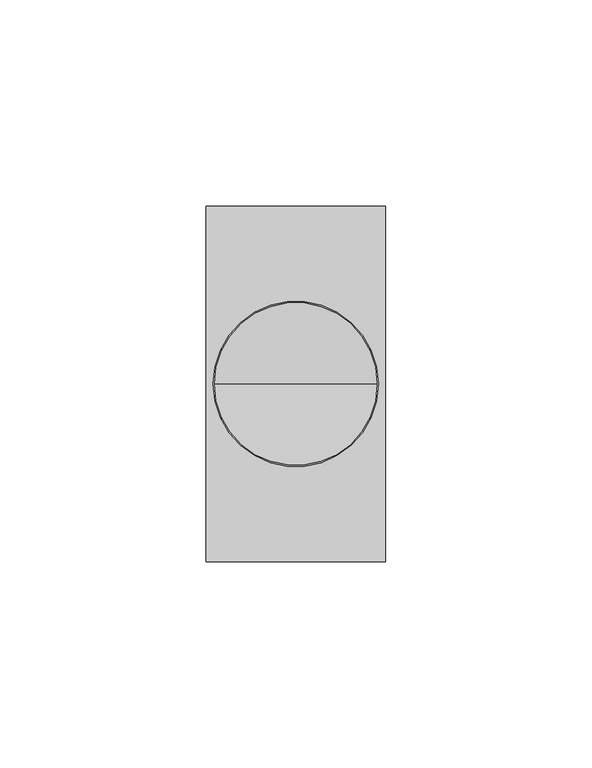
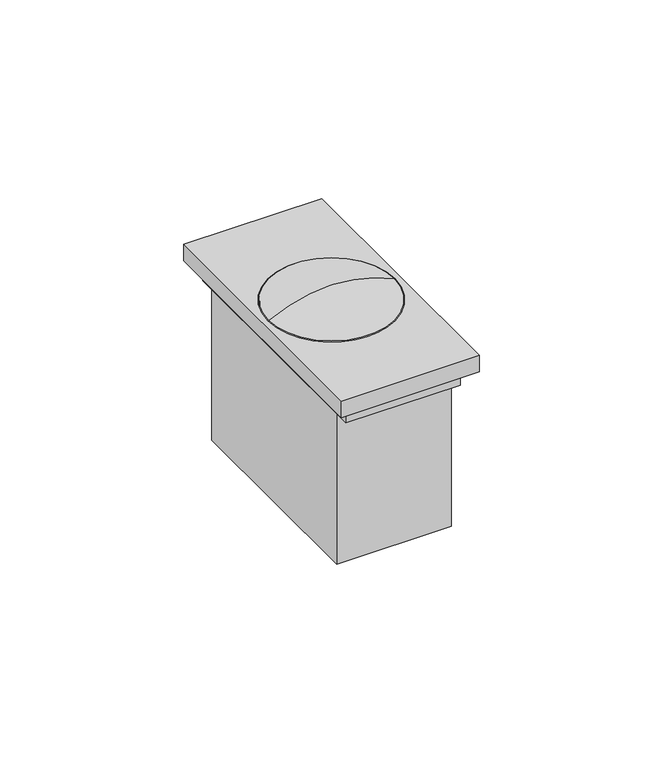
"""IFC4 building model written with IfcOpenShell, lengths in millimetres: light fixture geometry, BT_LN-TorciaEstraibile : Torcia estraibile - Art. K4380 - 2M - Cover Nero."""

from ifc_helpers import new_model, si_unit, point, frame, origin, origin_with_axes, origin_2d, place, context, project, spatial, polyline, circle_curve, ellipse_curve, trimmed, segment, composite_curve, outline, extrude, source, transform, mapped, element, save
from ifc_brep_helpers import plane_surface, cylinder_surface, revolved_surface, advanced_brep


def light_fixture_13e298cc(model_context):
    return source(origin(), model_context, "Body", "SolidModel", [
        advanced_brep(
        [(19.7266969, 0.0, 61.1362639), (-19.7266969, 0.0, 61.1362639), (0.0, 0.0, 65.9865601), (19.7266969, 0.0, 55.5), (-19.7266969, 0.0, 55.5), (0.0, 0.0, 55.5)],
        [
            (0, 1, circle_curve(frame((0.0, 0.0, 61.1362639), z_axis=(0.0, 0.0, 1.0), x_axis=(-1.0, 0.0, 0.0)), 19.7266969)),
            (1, 2, circle_curve(frame((1.075794, 0.0, 19.0706968), z_axis=(0.0, 1.0, 0.0), x_axis=(1.0, 0.0, 0.0)), 46.9281958)),
            (2, 0, circle_curve(frame((-1.075794, 0.0, 19.0706968), z_axis=(0.0, 1.0, 0.0), x_axis=(-1.0, 0.0, 0.0)), 46.9281958)),
            (1, 0, circle_curve(frame((0.0, 0.0, 61.1362639), z_axis=(0.0, 0.0, 1.0), x_axis=(-1.0, 0.0, 0.0)), 19.7266969)),
            (3, 4, circle_curve(frame((0.0, 0.0, 55.5), z_axis=(0.0, 0.0, 1.0), x_axis=(-1.0, 0.0, 0.0)), 19.7266969)),
            (4, 1),
            (0, 3),
            (4, 3, circle_curve(frame((0.0, 0.0, 55.5), z_axis=(0.0, 0.0, 1.0), x_axis=(-1.0, 0.0, 0.0)), 19.7266969)),
            (5, 4),
            (3, 5),
        ],
        [
            revolved_surface(trimmed(ellipse_curve(frame((1.075794, 0.0, 19.0706968), z_axis=(0.0, -1.0, 0.0), x_axis=(1.0, 0.0, 0.0)), 46.9281958, 46.9281958), [point((0.0, 0.0, 65.9865601))], [point((-19.7266969, 0.0, 61.1362639))], True, "CARTESIAN"), (0.0, 0.0, -381.0), (0.0, 0.0, -1.0)),
            cylinder_surface(frame((0.0, 0.0, -381.0), z_axis=(0.0, 0.0, -1.0), x_axis=(-1.0, 0.0, 0.0)), 19.7266969),
            plane_surface(frame((0.0, 0.0, 55.5), z_axis=(0.0, 0.0, -1.0), x_axis=(-1.0, 0.0, 0.0))),
        ],
        [
            (0, [[1, 2, 3]]),
            (0, [[4, -3, -2]]),
            (1, [[5, 6, -1, 7]]),
            (1, [[8, -7, -4, -6]]),
            (2, [[9, -5, 10]]),
            (2, [[-10, -8, -9]]),
        ],
    ),
        extrude(outline(polyline([(-21.7, -43.0), (-21.7, 43.0), (21.7, 43.0), (21.7, -43.0), (-21.7, -43.0)]), holes=[composite_curve([segment(trimmed(circle_curve(origin_2d(), 20.0), [point((-20.0, 0.0))], [point((20.0, 0.0))], True, "CARTESIAN"), True, "CONTINUOUS"), segment(trimmed(circle_curve(origin_2d(), 20.0), [point((20.0, 0.0))], [point((-20.0, 0.0))], True, "CARTESIAN"), True, "CONTINUOUS")], self_intersect=False)]), frame((0.0, 0.0, 55.5), z_axis=(0.0, 0.0, 1.0), x_axis=(1.0, 0.0, 0.0)), (0.0, 0.0, 1.0), 5.5),
        extrude(outline(polyline([(-18.0, 39.0), (18.0, 39.0), (18.0, -39.0), (-18.0, -39.0), (-18.0, 39.0)])), frame((0.0, 0.0, 50.0), z_axis=(0.0, 0.0, 1.0), x_axis=(1.0, 0.0, 0.0)), (0.0, 0.0, 1.0), 5.5),
        extrude(outline(polyline([(-18.0, 34.0), (18.0, 34.0), (18.0, -34.0), (-18.0, -34.0), (-18.0, 34.0)])), origin_with_axes(), (0.0, 0.0, 1.0), 50.0),
    ])


if __name__ == "__main__":
    model = new_model("IFC4")
    model_context = context("Model", 3, world=origin())
    ifc_project = project(units=[si_unit("LENGTHUNIT", "METRE", prefix="MILLI")], contexts=[model_context])
    site = spatial("IfcSite", under=ifc_project)
    building = spatial("IfcBuilding", under=site)
    placement = place(None, origin())
    light_fixture_shape = light_fixture_13e298cc(model_context)
    element("IfcLightFixture", 1, ObjectType="BT_LN-TorciaEstraibile : Torcia estraibile - Art. K4380 - 2M - Cover Nero", at=placement, inside=building, context=model_context, shape_type="MappedRepresentation", body=[
        mapped(light_fixture_shape, transform((0.0, 0.0, 0.0), x_axis=(1.0, 0.0, 0.0), y_axis=(0.0, 1.0, 0.0), z_axis=(0.0, 0.0, 1.0))),
    ])
    save(model, "model.ifc")
